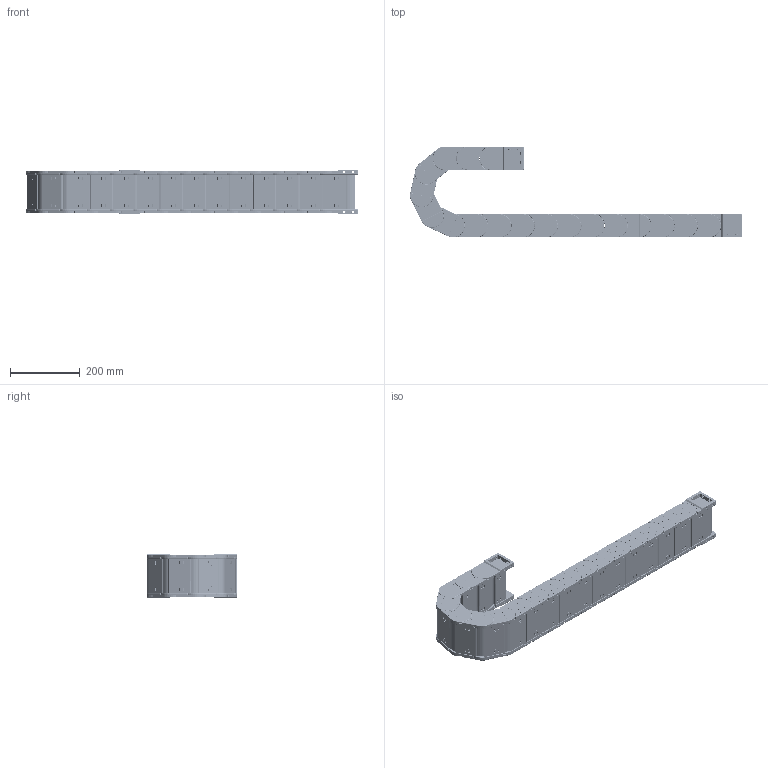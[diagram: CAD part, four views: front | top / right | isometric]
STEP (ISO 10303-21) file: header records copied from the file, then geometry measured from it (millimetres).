
FILE_DESCRIPTION (( 'STEP AP214' ), '1' );
FILE_NAME ('J45F.1.100S-3D賦凳芞.STEP', '2019-01-09T07:55:41', ( 'Sky123.Org' ), ( 'Sky123.Org' ), 'SwSTEP 2.0', 'SolidWorks 2017', '' );
FILE_SCHEMA (( 'AUTOMOTIVE_DESIGN' ));
Length unit declared in the file: millimetre
Products named in the file (11): 5-N45X100-源諉俋 - 萵掛; 45-N源諉芛俋; 5-N45X100-源諉囀 - 萵掛; 45-臏簽1; 45-N源諉芛囀; N45FX75-等誹1 - 萵掛; H35X75-FBP-W猾敕え; H35-J45-FBP-N猾敕え; 45-崝Ч翋极2; 45-崝Ч翋极1; J45F.1.100S-3D賦凳芞
Assembly tree (55 placements, depth 3):
  J45F.1.100S-3D賦凳芞
    N45FX75-等誹1 - 萵掛  x17
      45-崝Ч翋极1
      45-崝Ч翋极2
      H35-J45-FBP-N猾敕え
      H35X75-FBP-W猾敕え
    5-N45X100-源諉囀 - 萵掛
      45-N源諉芛囀  x2
      45-臏簽1  x12
      H35-J45-FBP-N猾敕え
      H35X75-FBP-W猾敕え
    5-N45X100-源諉俋 - 萵掛
      45-N源諉芛俋  x2
      45-臏簽1  x12
      H35-J45-FBP-N猾敕え
      H35X75-FBP-W猾敕え
Bounding box: 954.91 x 261 x 129 mm (x, y, z)
Volume: 3027536.4 mm3; surface area: 1588253.7 mm2
Topology: 100 solids, 100 shells, 24545 faces, 66231 edges, 41438 vertices
Faces by surface type: plane 12972, bspline 5460, cylinder 5357, torus 748, sphere 8
Entity records: 58112 total; most frequent: CARTESIAN_POINT 21277, ORIENTED_EDGE 7982, DIRECTION 6869, EDGE_CURVE 3991, LINE 2563, VECTOR 2563, VERTEX_POINT 2548, AXIS2_PLACEMENT_3D 2153
